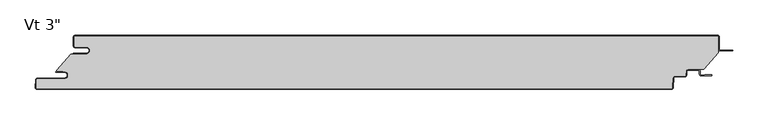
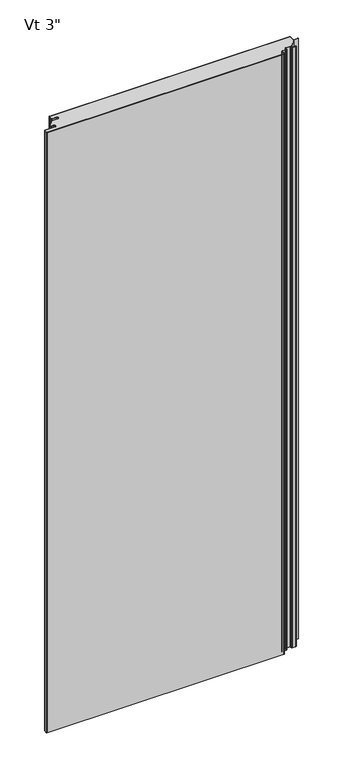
"""IFC4 building model written with IfcOpenShell, lengths in millimetres: plate geometry."""

from ifc_helpers import new_model, si_unit, point, frame, frame_2d, origin, origin_with_axes, place, context, project, spatial, polyline, circle_curve, ellipse_curve, trimmed, segment, composite_curve, outline, extrude, source, transform, mapped, element, save
from ifc_brep_helpers import plane_surface, cylinder_surface, revolved_surface, extruded_surface, advanced_brep


def plate_8a952727(model_context):
    return source(origin(), model_context, "Body", "SolidModel", [
        extrude(outline(composite_curve([segment(polyline([(-438.1437502, -16.4625), (-454.0187502, -16.4625)]), True, "CONTINUOUS"), segment(trimmed(circle_curve(frame_2d((-454.0187502, -15.08125)), 1.38125), [point((-454.0187502, -16.4625))], [point((-455.4000002, -15.08125))], False, "CARTESIAN"), True, "CONTINUOUS"), segment(polyline([(-455.4000002, -15.08125), (-455.4000002, -2.38125)]), True, "CONTINUOUS"), segment(trimmed(circle_curve(frame_2d((-454.0187502, -2.38125)), 1.38125), [point((-455.4000002, -2.38125))], [point((-454.0187502, -1.0))], False, "CARTESIAN"), True, "CONTINUOUS"), segment(polyline([(-454.0187502, -1.0), (454.0312498, -1.0)]), True, "CONTINUOUS"), segment(trimmed(circle_curve(frame_2d((454.0312498, -2.38125)), 1.38125), [point((454.0312498, -1.0))], [point((455.4124998, -2.38125))], False, "CARTESIAN"), True, "CONTINUOUS"), segment(polyline([(455.4124998, -2.38125), (455.4124998, -24.9057308), (434.5955432, -48.2125), (412.1540781, -48.2125)]), True, "CONTINUOUS"), segment(trimmed(circle_curve(frame_2d((412.1540781, -50.8)), 2.5875), [point((412.1540781, -48.2125))], [point((409.5701242, -50.6645807))], True, "CARTESIAN"), True, "CONTINUOUS"), segment(polyline([(409.5701242, -50.6645807), (409.2680479, -56.428539)]), True, "CONTINUOUS"), segment(trimmed(circle_curve(frame_2d((407.8886909, -56.35625)), 1.38125), [point((409.2680479, -56.428539))], [point((407.8886909, -57.7375))], False, "CARTESIAN"), True, "CONTINUOUS"), segment(polyline([(407.8886909, -57.7375), (393.7323845, -57.7375)]), True, "CONTINUOUS"), segment(trimmed(circle_curve(frame_2d((393.7323845, -60.325)), 2.5875), [point((393.7323845, -57.7375))], [point((391.1484306, -60.1895807))], True, "CARTESIAN"), True, "CONTINUOUS"), segment(polyline([(391.1484306, -60.1895807), (390.4303676, -73.891039)]), True, "CONTINUOUS"), segment(trimmed(circle_curve(frame_2d((389.0510105, -73.81875)), 1.38125), [point((390.4303676, -73.891039))], [point((389.0510105, -75.2))], False, "CARTESIAN"), True, "CONTINUOUS"), segment(polyline([(389.0510105, -75.2), (-507.8799537, -75.2)]), True, "CONTINUOUS"), segment(trimmed(circle_curve(frame_2d((-507.8799537, -73.81875)), 1.38125), [point((-507.8799537, -75.2))], [point((-509.2593107, -73.746461))], False, "CARTESIAN"), True, "CONTINUOUS"), segment(polyline([(-509.2593107, -73.746461), (-508.6769293, -62.633961)]), True, "CONTINUOUS"), segment(trimmed(circle_curve(frame_2d((-507.2975722, -62.70625)), 1.38125), [point((-508.6769293, -62.633961))], [point((-507.2975722, -61.325))], False, "CARTESIAN"), True, "CONTINUOUS"), segment(polyline([(-507.2975722, -61.325), (-469.1142676, -61.325)]), True, "CONTINUOUS"), segment(trimmed(circle_curve(frame_2d((-469.1142676, -56.35625)), 4.96875), [point((-469.1142676, -61.325))], [point((-469.1142676, -51.3875))], True, "CARTESIAN"), True, "CONTINUOUS"), segment(polyline([(-469.1142676, -51.3875), (-470.7017676, -51.59375), (-470.7017676, -50.8), (-480.2125002, -50.8), (-480.2125002, -49.2157227), (-460.3260924, -26.4), (-438.1437502, -26.4)]), True, "CONTINUOUS"), segment(trimmed(circle_curve(frame_2d((-438.1437502, -21.43125)), 4.96875), [point((-438.1437502, -26.4))], [point((-438.1437502, -16.4625))], True, "CARTESIAN"), True, "CONTINUOUS")], self_intersect=False)), origin_with_axes(), (0.0, 0.0, 1.0), 2400.0),
        extrude(outline(composite_curve([segment(polyline([(-456.4000002, -25.4), (-438.1437502, -25.4)]), True, "CONTINUOUS"), segment(trimmed(circle_curve(frame_2d((-438.1437502, -21.43125)), 3.96875), [point((-438.1437502, -25.4))], [point((-438.1437502, -17.4625))], True, "CARTESIAN"), True, "CONTINUOUS"), segment(polyline([(-438.1437502, -17.4625), (-454.0187502, -17.4625)]), True, "CONTINUOUS"), segment(trimmed(circle_curve(frame_2d((-454.0187502, -15.08125)), 2.38125), [point((-454.0187502, -17.4625))], [point((-456.4000002, -15.08125))], False, "CARTESIAN"), True, "CONTINUOUS"), segment(polyline([(-456.4000002, -15.08125), (-456.4000002, -2.38125)]), True, "CONTINUOUS"), segment(trimmed(circle_curve(frame_2d((-454.0187502, -2.38125)), 2.38125), [point((-456.4000002, -2.38125))], [point((-454.0187502, 0.0))], False, "CARTESIAN"), True, "CONTINUOUS"), segment(polyline([(-454.0187502, 0.0), (454.0312498, 0.0)]), True, "CONTINUOUS"), segment(trimmed(circle_curve(frame_2d((454.0312498, -2.38125)), 2.38125), [point((454.0312498, 0.0))], [point((456.4124998, -2.38125))], False, "CARTESIAN"), True, "CONTINUOUS"), segment(polyline([(456.4124998, -2.38125), (456.4124998, -19.446875)]), True, "CONTINUOUS"), segment(trimmed(circle_curve(frame_2d((457.9999998, -19.446875)), 1.5875), [point((456.4124998, -19.446875))], [point((457.9999998, -21.034375))], True, "CARTESIAN"), True, "CONTINUOUS"), segment(polyline([(457.9999998, -21.034375), (475.4624998, -21.034375), (475.4624998, -22.034375), (457.9999998, -22.034375)]), True, "CONTINUOUS"), segment(trimmed(circle_curve(frame_2d((457.9999998, -19.446875)), 2.5875), [point((457.9999998, -22.034375))], [point((455.4124998, -19.446875))], False, "CARTESIAN"), True, "CONTINUOUS"), segment(polyline([(455.4124998, -19.446875), (455.4124998, -2.38125)]), True, "CONTINUOUS"), segment(trimmed(circle_curve(frame_2d((454.0312498, -2.38125)), 1.38125), [point((455.4124998, -2.38125))], [point((454.0312498, -1.0))], True, "CARTESIAN"), True, "CONTINUOUS"), segment(polyline([(454.0312498, -1.0), (-454.0187502, -1.0)]), True, "CONTINUOUS"), segment(trimmed(circle_curve(frame_2d((-454.0187502, -2.38125)), 1.38125), [point((-454.0187502, -1.0))], [point((-455.4000002, -2.38125))], True, "CARTESIAN"), True, "CONTINUOUS"), segment(polyline([(-455.4000002, -2.38125), (-455.4000002, -15.08125)]), True, "CONTINUOUS"), segment(trimmed(circle_curve(frame_2d((-454.0187502, -15.08125)), 1.38125), [point((-455.4000002, -15.08125))], [point((-454.0187502, -16.4625))], True, "CARTESIAN"), True, "CONTINUOUS"), segment(polyline([(-454.0187502, -16.4625), (-438.1437502, -16.4625)]), True, "CONTINUOUS"), segment(trimmed(circle_curve(frame_2d((-438.1437502, -21.43125)), 4.96875), [point((-438.1437502, -16.4625))], [point((-438.1437502, -26.4))], False, "CARTESIAN"), True, "CONTINUOUS"), segment(polyline([(-438.1437502, -26.4), (-456.4000002, -26.4), (-456.4000002, -25.4)]), True, "CONTINUOUS")], self_intersect=False)), origin_with_axes(), (0.0, 0.0, 1.0), 2400.0),
        advanced_brep(
        [(-480.4252051, -50.8, 2400.0), (-480.4252051, -52.3875, 2400.0), (-469.1142676, -52.3875, 2400.0), (-469.1142676, -60.325, 2400.0), (-507.2975722, -60.325, 2400.0), (-509.6755588, -62.581625, 2400.0), (-510.2579402, -73.694125, 2400.0), (-507.8799537, -76.2, 2400.0), (389.0510105, -76.2, 2400.0), (391.4289971, -73.943375, 2400.0), (392.1470601, -60.2419167, 2400.0), (393.7323845, -58.7375, 2400.0), (407.8886909, -58.7375, 2400.0), (410.2666775, -56.480875, 2400.0), (410.5687537, -50.7169167, 2400.0), (412.1540781, -49.2125, 2400.0), (427.0294824, -49.2125, 2400.0), (428.6169824, -50.8, 2400.0), (428.6169824, -54.9671875, 2400.0), (430.9982324, -57.3484375, 2400.0), (445.489853, -57.3484375, 2400.0), (445.489853, -55.5546875, 2400.0), (435.7607324, -55.5546875, 2400.0), (435.7607324, -56.3484375, 2400.0), (430.9982324, -56.3484375, 2400.0), (429.6169824, -54.9671875, 2400.0), (429.6169824, -50.8, 2400.0), (427.0294824, -48.2125, 2400.0), (412.1540781, -48.2125, 2400.0), (409.5701242, -50.6645807, 2400.0), (409.2680479, -56.428539, 2400.0), (407.8886909, -57.7375, 2400.0), (393.7323845, -57.7375, 2400.0), (391.1484306, -60.1895807, 2400.0), (390.4303676, -73.891039, 2400.0), (389.0510105, -75.2, 2400.0), (-507.8799537, -75.2, 2400.0), (-509.2593107, -73.746461, 2400.0), (-508.6769293, -62.633961, 2400.0), (-507.2975722, -61.325, 2400.0), (-469.1142676, -61.325, 2400.0), (-469.1142676, -51.3875, 2400.0), (-470.7017676, -51.59375, 2400.0), (-470.7017676, -50.8, 2400.0), (-480.4252051, -50.8, 0.0), (-470.7017676, -50.8, 0.0), (-470.7017676, -51.59375, 0.0), (-469.1142676, -51.3875, 0.0), (-469.1142676, -61.325, 0.0), (-507.2975722, -61.325, 0.0), (-508.6769293, -62.633961, 0.0), (-509.2593107, -73.746461, 0.0), (-507.8799537, -75.2, 0.0), (389.0510105, -75.2, 0.0), (390.4303676, -73.891039, 0.0), (391.1484306, -60.1895807, 0.0), (393.7323845, -57.7375, 0.0), (407.8886909, -57.7375, 0.0), (409.2680479, -56.428539, 0.0), (409.5701242, -50.6645807, 0.0), (412.1540781, -48.2125, 0.0), (427.0294824, -48.2125, 0.0), (429.6169824, -50.8, 0.0), (429.6169824, -54.9671875, 0.0), (430.9982324, -56.3484375, 0.0), (435.7607324, -56.3484375, 0.0), (435.7607324, -55.5546875, 0.0), (445.489853, -55.5546875, 0.0), (445.489853, -57.3484375, 0.0), (430.9982324, -57.3484375, 0.0), (428.6169824, -54.9671875, 0.0), (428.6169824, -50.8, 0.0), (427.0294824, -49.2125, 0.0), (412.1540781, -49.2125, 0.0), (410.5687537, -50.7169167, 0.0), (410.2666775, -56.480875, 0.0), (407.8886909, -58.7375, 0.0), (393.7323845, -58.7375, 0.0), (392.1470601, -60.2419167, 0.0), (391.4289971, -73.943375, 0.0), (389.0510105, -76.2, 0.0), (-507.8799537, -76.2, 0.0), (-510.2579402, -73.694125, 0.0), (-509.6755588, -62.581625, 0.0), (-507.2975722, -60.325, 0.0), (-469.1142676, -60.325, 0.0), (-469.1142676, -52.3875, 0.0), (-480.4252051, -52.3875, 0.0)],
        [
            (0, 1, circle_curve(frame((-480.4252051, -51.59375, 2400.0), z_axis=(0.0, 0.0, 1.0), x_axis=(-1.0, 0.0, 0.0)), 0.79375)),
            (1, 2),
            (2, 3, circle_curve(frame((-469.1142676, -56.35625, 2400.0), z_axis=(0.0, 0.0, -1.0), x_axis=(-1.0, 0.0, 0.0)), 3.96875)),
            (3, 4),
            (4, 5, circle_curve(frame((-507.2975722, -62.70625, 2400.0), z_axis=(0.0, 0.0, 1.0), x_axis=(-1.0, 0.0, 0.0)), 2.38125)),
            (5, 6),
            (6, 7, circle_curve(frame((-507.8799537, -73.81875, 2400.0), z_axis=(0.0, 0.0, 1.0), x_axis=(-1.0, 0.0, 0.0)), 2.38125)),
            (7, 8),
            (8, 9, circle_curve(frame((389.0510105, -73.81875, 2400.0), z_axis=(0.0, 0.0, 1.0), x_axis=(-1.0, 0.0, 0.0)), 2.38125)),
            (9, 10),
            (10, 11, circle_curve(frame((393.7323845, -60.325, 2400.0), z_axis=(0.0, 0.0, -1.0), x_axis=(-1.0, 0.0, 0.0)), 1.5875)),
            (11, 12),
            (12, 13, circle_curve(frame((407.8886909, -56.35625, 2400.0), z_axis=(0.0, 0.0, 1.0), x_axis=(-1.0, 0.0, 0.0)), 2.38125)),
            (13, 14),
            (14, 15, circle_curve(frame((412.1540781, -50.8, 2400.0), z_axis=(0.0, 0.0, -1.0), x_axis=(-1.0, 0.0, 0.0)), 1.5875)),
            (15, 16),
            (16, 17, circle_curve(frame((427.0294824, -50.8, 2400.0), z_axis=(0.0, 0.0, -1.0), x_axis=(-1.0, 0.0, 0.0)), 1.5875)),
            (17, 18),
            (18, 19, circle_curve(frame((430.9982324, -54.9671875, 2400.0), z_axis=(0.0, 0.0, 1.0), x_axis=(-1.0, 0.0, 0.0)), 2.38125)),
            (19, 20),
            (20, 21, ellipse_curve(frame((445.489853, -56.4515625, 2400.0), z_axis=(0.0, 0.0, 1.0), x_axis=(0.0, 1.0, 0.0)), 0.896875, 0.7852275)),
            (21, 22),
            (22, 23),
            (23, 24),
            (24, 25, circle_curve(frame((430.9982324, -54.9671875, 2400.0), z_axis=(0.0, 0.0, -1.0), x_axis=(-1.0, 0.0, 0.0)), 1.38125)),
            (25, 26),
            (26, 27, circle_curve(frame((427.0294824, -50.8, 2400.0), z_axis=(0.0, 0.0, 1.0), x_axis=(-1.0, 0.0, 0.0)), 2.5875)),
            (27, 28),
            (28, 29, circle_curve(frame((412.1540781, -50.8, 2400.0), z_axis=(0.0, 0.0, 1.0), x_axis=(-1.0, 0.0, 0.0)), 2.5875)),
            (29, 30),
            (30, 31, circle_curve(frame((407.8886909, -56.35625, 2400.0), z_axis=(0.0, 0.0, -1.0), x_axis=(-1.0, 0.0, 0.0)), 1.38125)),
            (31, 32),
            (32, 33, circle_curve(frame((393.7323845, -60.325, 2400.0), z_axis=(0.0, 0.0, 1.0), x_axis=(-1.0, 0.0, 0.0)), 2.5875)),
            (33, 34),
            (34, 35, circle_curve(frame((389.0510105, -73.81875, 2400.0), z_axis=(0.0, 0.0, -1.0), x_axis=(-1.0, 0.0, 0.0)), 1.38125)),
            (35, 36),
            (36, 37, circle_curve(frame((-507.8799537, -73.81875, 2400.0), z_axis=(0.0, 0.0, -1.0), x_axis=(-1.0, 0.0, 0.0)), 1.38125)),
            (37, 38),
            (38, 39, circle_curve(frame((-507.2975722, -62.70625, 2400.0), z_axis=(0.0, 0.0, -1.0), x_axis=(-1.0, 0.0, 0.0)), 1.38125)),
            (39, 40),
            (40, 41, circle_curve(frame((-469.1142676, -56.35625, 2400.0), z_axis=(0.0, 0.0, 1.0), x_axis=(-1.0, 0.0, 0.0)), 4.96875)),
            (41, 42),
            (42, 43),
            (43, 0),
            (44, 45),
            (45, 46),
            (46, 47),
            (47, 48, circle_curve(frame((-469.1142676, -56.35625, 0.0), z_axis=(0.0, 0.0, -1.0), x_axis=(-1.0, 0.0, 0.0)), 4.96875)),
            (48, 49),
            (49, 50, circle_curve(frame((-507.2975722, -62.70625, 0.0), z_axis=(0.0, 0.0, 1.0), x_axis=(-1.0, 0.0, 0.0)), 1.38125)),
            (50, 51),
            (51, 52, circle_curve(frame((-507.8799537, -73.81875, 0.0), z_axis=(0.0, 0.0, 1.0), x_axis=(-1.0, 0.0, 0.0)), 1.38125)),
            (52, 53),
            (53, 54, circle_curve(frame((389.0510105, -73.81875, 0.0), z_axis=(0.0, 0.0, 1.0), x_axis=(-1.0, 0.0, 0.0)), 1.38125)),
            (54, 55),
            (55, 56, circle_curve(frame((393.7323845, -60.325, 0.0), z_axis=(0.0, 0.0, -1.0), x_axis=(-1.0, 0.0, 0.0)), 2.5875)),
            (56, 57),
            (57, 58, circle_curve(frame((407.8886909, -56.35625, 0.0), z_axis=(0.0, 0.0, 1.0), x_axis=(-1.0, 0.0, 0.0)), 1.38125)),
            (58, 59),
            (59, 60, circle_curve(frame((412.1540781, -50.8, 0.0), z_axis=(0.0, 0.0, -1.0), x_axis=(-1.0, 0.0, 0.0)), 2.5875)),
            (60, 61),
            (61, 62, circle_curve(frame((427.0294824, -50.8, 0.0), z_axis=(0.0, 0.0, -1.0), x_axis=(-1.0, 0.0, 0.0)), 2.5875)),
            (62, 63),
            (63, 64, circle_curve(frame((430.9982324, -54.9671875, 0.0), z_axis=(0.0, 0.0, 1.0), x_axis=(-1.0, 0.0, 0.0)), 1.38125)),
            (64, 65),
            (65, 66),
            (66, 67),
            (67, 68, ellipse_curve(frame((445.489853, -56.4515625, 0.0), z_axis=(0.0, 0.0, -1.0), x_axis=(0.0, 1.0, 0.0)), 0.896875, 0.7852275)),
            (68, 69),
            (69, 70, circle_curve(frame((430.9982324, -54.9671875, 0.0), z_axis=(0.0, 0.0, -1.0), x_axis=(-1.0, 0.0, 0.0)), 2.38125)),
            (70, 71),
            (71, 72, circle_curve(frame((427.0294824, -50.8, 0.0), z_axis=(0.0, 0.0, 1.0), x_axis=(-1.0, 0.0, 0.0)), 1.5875)),
            (72, 73),
            (73, 74, circle_curve(frame((412.1540781, -50.8, 0.0), z_axis=(0.0, 0.0, 1.0), x_axis=(-1.0, 0.0, 0.0)), 1.5875)),
            (74, 75),
            (75, 76, circle_curve(frame((407.8886909, -56.35625, 0.0), z_axis=(0.0, 0.0, -1.0), x_axis=(-1.0, 0.0, 0.0)), 2.38125)),
            (76, 77),
            (77, 78, circle_curve(frame((393.7323845, -60.325, 0.0), z_axis=(0.0, 0.0, 1.0), x_axis=(-1.0, 0.0, 0.0)), 1.5875)),
            (78, 79),
            (79, 80, circle_curve(frame((389.0510105, -73.81875, 0.0), z_axis=(0.0, 0.0, -1.0), x_axis=(-1.0, 0.0, 0.0)), 2.38125)),
            (80, 81),
            (81, 82, circle_curve(frame((-507.8799537, -73.81875, 0.0), z_axis=(0.0, 0.0, -1.0), x_axis=(-1.0, 0.0, 0.0)), 2.38125)),
            (82, 83),
            (83, 84, circle_curve(frame((-507.2975722, -62.70625, 0.0), z_axis=(0.0, 0.0, -1.0), x_axis=(-1.0, 0.0, 0.0)), 2.38125)),
            (84, 85),
            (85, 86, circle_curve(frame((-469.1142676, -56.35625, 0.0), z_axis=(0.0, 0.0, 1.0), x_axis=(-1.0, 0.0, 0.0)), 3.96875)),
            (86, 87),
            (87, 44, circle_curve(frame((-480.4252051, -51.59375, 0.0), z_axis=(0.0, 0.0, -1.0), x_axis=(-1.0, 0.0, 0.0)), 0.79375)),
            (43, 45),
            (44, 0),
            (87, 1),
            (86, 2),
            (85, 3),
            (84, 4),
            (83, 5),
            (82, 6),
            (81, 7),
            (80, 8),
            (79, 9),
            (78, 10),
            (77, 11),
            (76, 12),
            (75, 13),
            (74, 14),
            (73, 15),
            (38, 50),
            (49, 39),
            (37, 51),
            (36, 52),
            (35, 53),
            (34, 54),
            (33, 55),
            (32, 56),
            (31, 57),
            (30, 58),
            (29, 59),
            (28, 60),
            (23, 65),
            (64, 24),
            (63, 25),
            (62, 26),
            (72, 16),
            (71, 17),
            (70, 18),
            (69, 19),
            (68, 20),
            (27, 61),
            (48, 40),
            (47, 41),
            (42, 46),
            (22, 66),
            (21, 67),
        ],
        [
            plane_surface(frame((0.0062498, -76.2, 2400.0), z_axis=(0.0, 0.0, 1.0), x_axis=(0.0, -1.0, 0.0))),
            plane_surface(frame((0.0062498, -76.2, 0.0), z_axis=(0.0, 0.0, -1.0), x_axis=(0.0, -1.0, 0.0))),
            plane_surface(frame((-480.4252051, -50.8, 2400.0), z_axis=(0.0, 1.0, 0.0), x_axis=(0.0, 0.0, -1.0))),
            cylinder_surface(frame((-480.4252051, -51.59375, 2400.0), z_axis=(0.0, 0.0, 1.0), x_axis=(-1.0, 0.0, 0.0)), 0.79375),
            plane_surface(frame((-469.1142676, -52.3875, 2400.0), z_axis=(0.0, -1.0, 0.0), x_axis=(0.0, 0.0, -1.0))),
            revolved_surface(polyline([(-473.0830176, -56.35625, 0.0), (-473.0830176, -56.35625, 2400.0)]), (-469.1142676, -56.35625, 2400.0), (0.0, 0.0, -1.0)),
            plane_surface(frame((-507.2975722, -60.325, 2400.0), z_axis=(0.0, 1.0, 0.0), x_axis=(0.0, 0.0, -1.0))),
            cylinder_surface(frame((-507.2975722, -62.70625, 2400.0), z_axis=(0.0, 0.0, 1.0), x_axis=(-1.0, 0.0, 0.0)), 2.38125),
            plane_surface(frame((-510.2579402, -73.694125, 2400.0), z_axis=(-0.9986295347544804, 0.05233595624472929, 0.0), x_axis=(0.0, 0.0, -1.0))),
            cylinder_surface(frame((-507.8799537, -73.81875, 2400.0), z_axis=(0.0, 0.0, 1.0), x_axis=(-1.0, 0.0, 0.0)), 2.38125),
            plane_surface(frame((389.0510105, -76.2, 2400.0), z_axis=(0.0, -1.0, 0.0), x_axis=(0.0, 0.0, -1.0))),
            cylinder_surface(frame((389.0510105, -73.81875, 2400.0), z_axis=(0.0, 0.0, 1.0), x_axis=(-1.0, 0.0, 0.0)), 2.38125),
            plane_surface(frame((392.1470601, -60.2419167, 2400.0), z_axis=(0.9986295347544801, -0.05233595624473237, 0.0), x_axis=(0.0, 0.0, -1.0))),
            revolved_surface(polyline([(392.14488450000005, -60.325, 0.0), (392.14488450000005, -60.325, 2400.0)]), (393.7323845, -60.325, 2400.0), (0.0, 0.0, -1.0)),
            plane_surface(frame((407.8886909, -58.7375, 2400.0), z_axis=(0.0, -1.0, 0.0), x_axis=(0.0, 0.0, -1.0))),
            cylinder_surface(frame((407.8886909, -56.35625, 2400.0), z_axis=(0.0, 0.0, 1.0), x_axis=(-1.0, 0.0, 0.0)), 2.38125),
            plane_surface(frame((410.5687537, -50.7169167, 2400.0), z_axis=(0.9986295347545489, -0.05233595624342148, 0.0), x_axis=(0.0, 0.0, -1.0))),
            revolved_surface(polyline([(410.5665781, -50.8, 0.0), (410.5665781, -50.8, 2400.0)]), (412.1540781, -50.8, 2400.0), (0.0, 0.0, -1.0)),
            revolved_surface(polyline([(-508.6788222, -62.70625, 0.0), (-508.6788222, -62.70625, 2400.0)]), (-507.2975722, -62.70625, 2400.0), (0.0, 0.0, -1.0)),
            plane_surface(frame((-508.6769293, -62.633961, 2400.0), z_axis=(0.9986295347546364, -0.05233595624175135, 0.0), x_axis=(0.0, 0.0, -1.0))),
            revolved_surface(polyline([(-509.2612037, -73.81875, 0.0), (-509.2612037, -73.81875, 2400.0)]), (-507.8799537, -73.81875, 2400.0), (0.0, 0.0, -1.0)),
            plane_surface(frame((-507.8799537, -75.2, 2400.0), z_axis=(0.0, 1.0, 0.0), x_axis=(0.0, 0.0, -1.0))),
            revolved_surface(polyline([(387.6697605, -73.81875, 0.0), (387.6697605, -73.81875, 2400.0)]), (389.0510105, -73.81875, 2400.0), (0.0, 0.0, -1.0)),
            plane_surface(frame((390.4303676, -73.891039, 2400.0), z_axis=(-0.9986295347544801, 0.05233595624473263, 0.0), x_axis=(0.0, 0.0, -1.0))),
            cylinder_surface(frame((393.7323845, -60.325, 2400.0), z_axis=(0.0, 0.0, 1.0), x_axis=(-1.0, 0.0, 0.0)), 2.5875),
            plane_surface(frame((393.7323845, -57.7375, 2400.0), z_axis=(0.0, 1.0, 0.0), x_axis=(0.0, 0.0, -1.0))),
            revolved_surface(polyline([(406.50744089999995, -56.35625, 0.0), (406.50744089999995, -56.35625, 2400.0)]), (407.8886909, -56.35625, 2400.0), (0.0, 0.0, -1.0)),
            plane_surface(frame((409.2680479, -56.428539, 2400.0), z_axis=(-0.998629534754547, 0.05233595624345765, 0.0), x_axis=(0.0, 0.0, -1.0))),
            cylinder_surface(frame((412.1540781, -50.8, 2400.0), z_axis=(0.0, 0.0, 1.0), x_axis=(-1.0, 0.0, 0.0)), 2.5875),
            plane_surface(frame((430.9982324, -56.3484375, 2400.0), z_axis=(0.0, 1.0, 0.0), x_axis=(0.0, 0.0, -1.0))),
            revolved_surface(polyline([(429.6169824, -54.9671875, 0.0), (429.6169824, -54.9671875, 2400.0)]), (430.9982324, -54.9671875, 2400.0), (0.0, 0.0, -1.0)),
            plane_surface(frame((429.6169824, -50.8, 2400.0), z_axis=(1.0, 0.0, 0.0), x_axis=(0.0, 0.0, -1.0))),
            plane_surface(frame((427.0294824, -49.2125, 2400.0), z_axis=(0.0, -1.0, 0.0), x_axis=(0.0, 0.0, -1.0))),
            revolved_surface(polyline([(425.44198240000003, -50.8, 0.0), (425.44198240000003, -50.8, 2400.0)]), (427.0294824, -50.8, 2400.0), (0.0, 0.0, -1.0)),
            plane_surface(frame((428.6169824, -54.9671875, 2400.0), z_axis=(-1.0, 0.0, 0.0), x_axis=(0.0, 0.0, -1.0))),
            cylinder_surface(frame((430.9982324, -54.9671875, 2400.0), z_axis=(0.0, 0.0, 1.0), x_axis=(-1.0, 0.0, 0.0)), 2.38125),
            plane_surface(frame((445.489853, -57.3484375, 2400.0), z_axis=(0.0, -1.0, 0.0), x_axis=(0.0, 0.0, -1.0))),
            plane_surface(frame((412.1540781, -48.2125, 2400.0), z_axis=(0.0, 1.0, 0.0), x_axis=(0.0, 0.0, -1.0))),
            cylinder_surface(frame((427.0294824, -50.8, 2400.0), z_axis=(0.0, 0.0, 1.0), x_axis=(-1.0, 0.0, 0.0)), 2.5875),
            plane_surface(frame((-469.1142676, -61.325, 2400.0), z_axis=(0.0, -1.0, 0.0), x_axis=(0.0, 0.0, -1.0))),
            cylinder_surface(frame((-469.1142676, -56.35625, 2400.0), z_axis=(0.0, 0.0, 1.0), x_axis=(-1.0, 0.0, 0.0)), 4.96875),
            plane_surface(frame((-470.7017676, -50.8, 2400.0), z_axis=(1.0, 0.0, 0.0), x_axis=(0.0, 0.0, -1.0))),
            plane_surface(frame((-470.7017676, -51.59375, 2400.0), z_axis=(-0.12883844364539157, 0.9916655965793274, 0.0), x_axis=(0.0, 0.0, -1.0))),
            plane_surface(frame((435.7607324, -56.3484375, 2400.0), z_axis=(-1.0, 0.0, 0.0), x_axis=(0.0, 0.0, -1.0))),
            plane_surface(frame((435.7607324, -55.5546875, 2400.0), z_axis=(0.0, 1.0, 0.0), x_axis=(0.0, 0.0, -1.0))),
            extruded_surface(trimmed(ellipse_curve(frame((445.489853, -56.4515625, 2400.0), z_axis=(0.0, 0.0, -1.0), x_axis=(0.0, 1.0, 0.0)), 0.896875, 0.7852275), [point((445.489853, -55.5546875, 2400.0))], [point((445.489853, -57.3484375, 2400.0))], True, "CARTESIAN"), (0.0, 0.0, -2400.0), 2400.0),
        ],
        [
            (0, [[1, 2, 3, 4, 5, 6, 7, 8, 9, 10, 11, 12, 13, 14, 15, 16, 17, 18, 19, 20, 21, 22, 23, 24, 25, 26, 27, 28, 29, 30, 31, 32, 33, 34, 35, 36, 37, 38, 39, 40, 41, 42, 43, 44]]),
            (1, [[45, 46, 47, 48, 49, 50, 51, 52, 53, 54, 55, 56, 57, 58, 59, 60, 61, 62, 63, 64, 65, 66, 67, 68, 69, 70, 71, 72, 73, 74, 75, 76, 77, 78, 79, 80, 81, 82, 83, 84, 85, 86, 87, 88]]),
            (2, [[89, -45, 90, -44]]),
            (3, [[-90, -88, 91, -1]]),
            (4, [[-91, -87, 92, -2]]),
            (5, [[-92, -86, 93, -3]]),
            (6, [[-93, -85, 94, -4]]),
            (7, [[-94, -84, 95, -5]]),
            (8, [[-95, -83, 96, -6]]),
            (9, [[-96, -82, 97, -7]]),
            (10, [[-97, -81, 98, -8]]),
            (11, [[-98, -80, 99, -9]]),
            (12, [[-99, -79, 100, -10]]),
            (13, [[-100, -78, 101, -11]]),
            (14, [[-101, -77, 102, -12]]),
            (15, [[-102, -76, 103, -13]]),
            (16, [[-103, -75, 104, -14]]),
            (17, [[-104, -74, 105, -15]]),
            (18, [[106, -50, 107, -39]]),
            (19, [[108, -51, -106, -38]]),
            (20, [[109, -52, -108, -37]]),
            (21, [[110, -53, -109, -36]]),
            (22, [[111, -54, -110, -35]]),
            (23, [[112, -55, -111, -34]]),
            (24, [[113, -56, -112, -33]]),
            (25, [[114, -57, -113, -32]]),
            (26, [[115, -58, -114, -31]]),
            (27, [[116, -59, -115, -30]]),
            (28, [[117, -60, -116, -29]]),
            (29, [[118, -65, 119, -24]]),
            (30, [[-119, -64, 120, -25]]),
            (31, [[-120, -63, 121, -26]]),
            (32, [[-105, -73, 122, -16]]),
            (33, [[-122, -72, 123, -17]]),
            (34, [[-123, -71, 124, -18]]),
            (35, [[-124, -70, 125, -19]]),
            (36, [[-125, -69, 126, -20]]),
            (37, [[127, -61, -117, -28]]),
            (38, [[-121, -62, -127, -27]]),
            (39, [[-107, -49, 128, -40]]),
            (40, [[-128, -48, 129, -41]]),
            (41, [[130, -46, -89, -43]]),
            (42, [[-129, -47, -130, -42]]),
            (43, [[131, -66, -118, -23]]),
            (44, [[132, -67, -131, -22]]),
            (45, [[-126, -68, -132, -21]]),
        ],
    ),
    ])


if __name__ == "__main__":
    model = new_model("IFC4")
    model_context = context("Model", 3, world=origin())
    ifc_project = project(units=[si_unit("LENGTHUNIT", "METRE", prefix="MILLI")], contexts=[model_context])
    site = spatial("IfcSite", under=ifc_project)
    building = spatial("IfcBuilding", under=site)
    placement = place(None, origin())
    plate_shape = plate_8a952727(model_context)
    element("IfcPlate", 1, ObjectType="KIP-36-DWHR-R19-CP-Vt-F : Vt 3\"", at=placement, inside=building, context=model_context, shape_type="MappedRepresentation", body=[
        mapped(plate_shape, transform((0.0, 0.0, 0.0), x_axis=(1.0, 0.0, 0.0), y_axis=(0.0, 1.0, 0.0), z_axis=(0.0, 0.0, 1.0))),
    ])
    save(model, "model.ifc")
